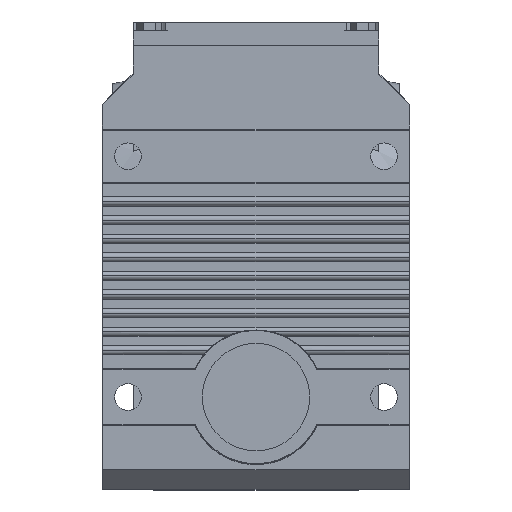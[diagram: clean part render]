
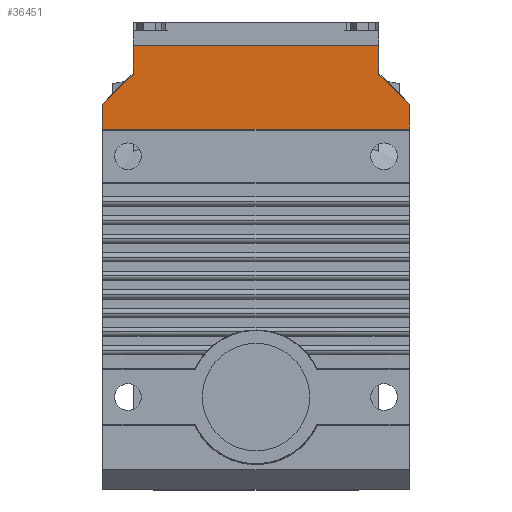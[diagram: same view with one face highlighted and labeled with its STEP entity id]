
A CAD part, top view. The second image highlights one B-rep face of the part: STEP entity #36451.
In plain terms, the highlighted planar face has unit normal (0, 0, 1).
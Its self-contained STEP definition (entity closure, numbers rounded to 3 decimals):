
#2261 = CARTESIAN_POINT ( 'NONE',  ( 104.84, 153.493, 164.25 ) ) ;
#4877 = EDGE_CURVE ( 'NONE', #7263, #57167, #33097, .T. ) ;
#7263 = VERTEX_POINT ( 'NONE', #58798 ) ;
#9058 = ORIENTED_EDGE ( 'NONE', *, *, #14099, .F. ) ;
#9430 = LINE ( 'NONE', #2261, #75294 ) ;
#9668 = LINE ( 'NONE', #37214, #21649 ) ;
#10785 = VERTEX_POINT ( 'NONE', #44143 ) ;
#11040 = CARTESIAN_POINT ( 'NONE',  ( -164.66, 123.286, 164.25 ) ) ;
#12519 = CARTESIAN_POINT ( 'NONE',  ( -164.66, 98.743, 164.25 ) ) ;
#14099 = EDGE_CURVE ( 'NONE', #57167, #76681, #32342, .T. ) ;
#16065 = ORIENTED_EDGE ( 'NONE', *, *, #48203, .T. ) ;
#16694 = VECTOR ( 'NONE', #75964, 1000. ) ;
#18756 = DIRECTION ( 'NONE',  ( 0., 0., -1. ) ) ;
#19320 = ORIENTED_EDGE ( 'NONE', *, *, #4877, .F. ) ;
#20796 = CARTESIAN_POINT ( 'NONE',  ( -135.26, 180.843, 164.25 ) ) ;
#21460 = ORIENTED_EDGE ( 'NONE', *, *, #57530, .F. ) ;
#21600 = ORIENTED_EDGE ( 'NONE', *, *, #59325, .F. ) ;
#21649 = VECTOR ( 'NONE', #42772, 1000. ) ;
#23120 = ORIENTED_EDGE ( 'NONE', *, *, #51646, .F. ) ;
#24372 = CARTESIAN_POINT ( 'NONE',  ( 134.84, 99.243, 164.25 ) ) ;
#24498 = DIRECTION ( 'NONE',  ( 0., 1., 0. ) ) ;
#24942 = CARTESIAN_POINT ( 'NONE',  ( 134.34, 98.743, 164.25 ) ) ;
#27549 = VERTEX_POINT ( 'NONE', #71493 ) ;
#28268 = VECTOR ( 'NONE', #62326, 1000. ) ;
#30749 = ORIENTED_EDGE ( 'NONE', *, *, #37188, .T. ) ;
#32342 = LINE ( 'NONE', #24942, #57219 ) ;
#33097 = LINE ( 'NONE', #73535, #78980 ) ;
#35044 = VERTEX_POINT ( 'NONE', #11040 ) ;
#36451 = ADVANCED_FACE ( 'NONE', ( #80445 ), #44413, .F. ) ;
#37188 = EDGE_CURVE ( 'NONE', #27549, #10785, #50609, .T. ) ;
#37214 = CARTESIAN_POINT ( 'NONE',  ( -164.66, 123.286, 164.25 ) ) ;
#40158 = AXIS2_PLACEMENT_3D ( 'NONE', #63990, #18756, #56417 ) ;
#42658 = VECTOR ( 'NONE', #24498, 1000. ) ;
#42772 = DIRECTION ( 'NONE',  ( 0.707, 0.707, 0. ) ) ;
#44143 = CARTESIAN_POINT ( 'NONE',  ( -135.16, 152.786, 164.25 ) ) ;
#44413 = PLANE ( 'NONE',  #40158 ) ;
#46491 = VECTOR ( 'NONE', #72155, 1000. ) ;
#48203 = EDGE_CURVE ( 'NONE', #7263, #64429, #9430, .T. ) ;
#50609 = LINE ( 'NONE', #63159, #16694 ) ;
#51646 = EDGE_CURVE ( 'NONE', #35044, #10785, #9668, .T. ) ;
#53048 = VERTEX_POINT ( 'NONE', #70788 ) ;
#56417 = DIRECTION ( 'NONE',  ( -1., 0., 0. ) ) ;
#57167 = VERTEX_POINT ( 'NONE', #63616 ) ;
#57219 = VECTOR ( 'NONE', #68745, 1000. ) ;
#57530 = EDGE_CURVE ( 'NONE', #76681, #53048, #62196, .T. ) ;
#58798 = CARTESIAN_POINT ( 'NONE',  ( 104.84, 152.786, 164.25 ) ) ;
#59325 = EDGE_CURVE ( 'NONE', #53048, #35044, #68561, .T. ) ;
#62196 = LINE ( 'NONE', #24372, #28268 ) ;
#62326 = DIRECTION ( 'NONE',  ( -1., 0., 0. ) ) ;
#63159 = CARTESIAN_POINT ( 'NONE',  ( -135.16, 153.493, 164.25 ) ) ;
#63458 = LINE ( 'NONE', #20796, #46491 ) ;
#63616 = CARTESIAN_POINT ( 'NONE',  ( 134.34, 123.286, 164.25 ) ) ;
#63990 = CARTESIAN_POINT ( 'NONE',  ( 134.84, 98.743, 164.25 ) ) ;
#64429 = VERTEX_POINT ( 'NONE', #70206 ) ;
#65070 = EDGE_LOOP ( 'NONE', ( #16065, #66527, #30749, #23120, #21600, #21460, #9058, #19320 ) ) ;
#66060 = DIRECTION ( 'NONE',  ( 0., 1., 0. ) ) ;
#66527 = ORIENTED_EDGE ( 'NONE', *, *, #81403, .F. ) ;
#67131 = DIRECTION ( 'NONE',  ( 0.707, -0.707, 0. ) ) ;
#68561 = LINE ( 'NONE', #12519, #42658 ) ;
#68745 = DIRECTION ( 'NONE',  ( 0., -1., 0. ) ) ;
#70206 = CARTESIAN_POINT ( 'NONE',  ( 104.84, 180.843, 164.25 ) ) ;
#70788 = CARTESIAN_POINT ( 'NONE',  ( -164.66, 99.243, 164.25 ) ) ;
#71493 = CARTESIAN_POINT ( 'NONE',  ( -135.16, 180.843, 164.25 ) ) ;
#72155 = DIRECTION ( 'NONE',  ( 1., 0., 0. ) ) ;
#73535 = CARTESIAN_POINT ( 'NONE',  ( 104.84, 152.786, 164.25 ) ) ;
#75294 = VECTOR ( 'NONE', #66060, 1000. ) ;
#75964 = DIRECTION ( 'NONE',  ( 0., -1., 0. ) ) ;
#76681 = VERTEX_POINT ( 'NONE', #81960 ) ;
#78980 = VECTOR ( 'NONE', #67131, 1000. ) ;
#80445 = FACE_OUTER_BOUND ( 'NONE', #65070, .T. ) ;
#81403 = EDGE_CURVE ( 'NONE', #27549, #64429, #63458, .T. ) ;
#81960 = CARTESIAN_POINT ( 'NONE',  ( 134.34, 99.243, 164.25 ) ) ;
